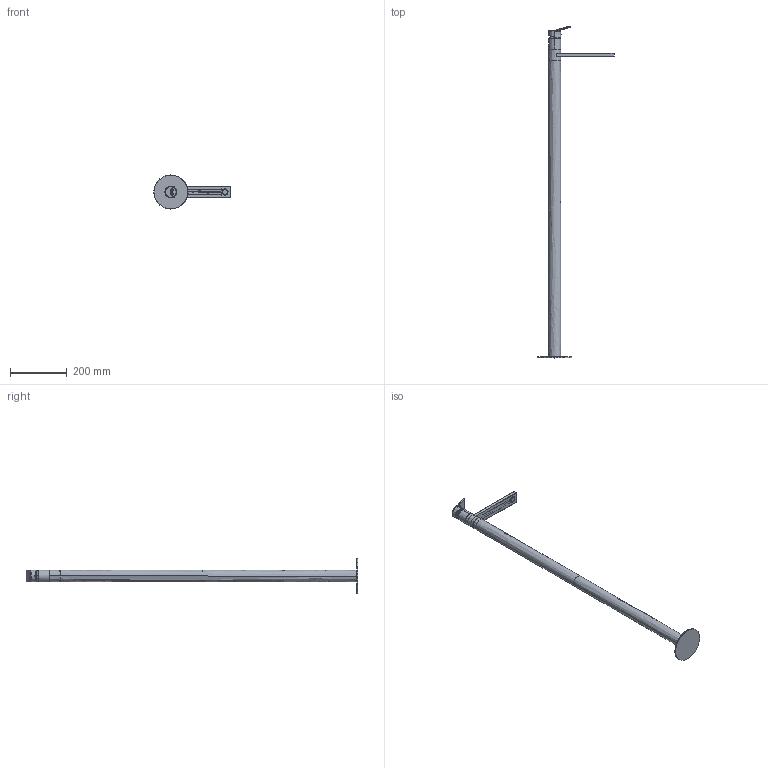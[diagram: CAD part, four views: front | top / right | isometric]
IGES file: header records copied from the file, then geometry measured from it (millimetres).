
Start section:  PTC IGES file: 74595.igs
Global section: file name: 74595.igs; native system: Creo Parametric by PTC Inc.; preprocessor: 2022014; author: carloff; organization: Unknown; date: 20250709.165318; units: millimetre
Bounding box: 269.2 x 1170.67 x 120 mm (x, y, z)
Surface area: 365561.2 mm2 (no closed solid volume)
Topology: 0 solids, 0 shells, 501 faces, 2442 edges, 2426 vertices
Faces by surface type: revolution 332, bspline 169
